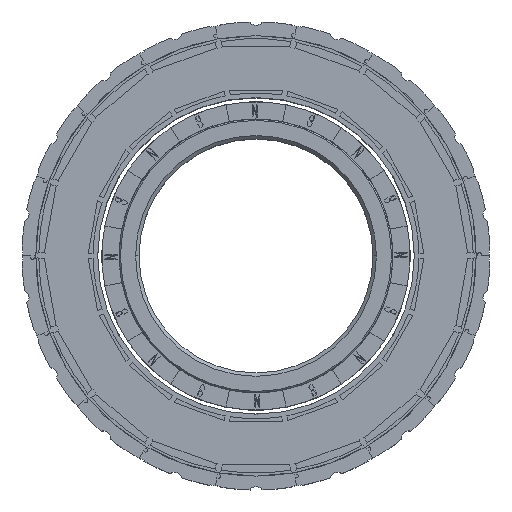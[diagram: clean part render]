
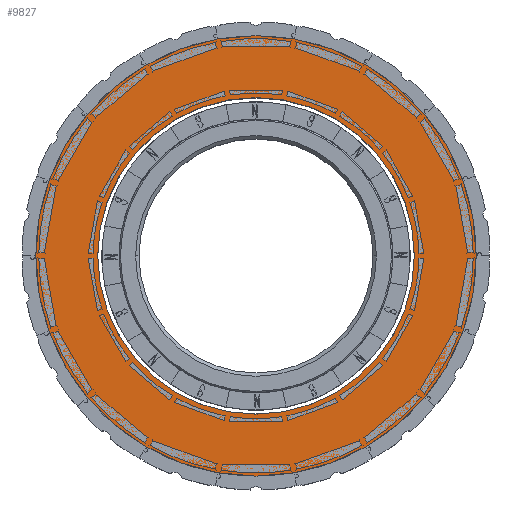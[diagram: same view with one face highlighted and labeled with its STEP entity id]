
A CAD part, top view. The second image highlights one B-rep face of the part: STEP entity #9827.
In plain terms, the highlighted planar face has unit normal (0, 0, 1).
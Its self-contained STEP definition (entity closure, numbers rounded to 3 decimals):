
#543 = CIRCLE ( 'NONE', #32594, 23. ) ;
#1608 = CARTESIAN_POINT ( 'NONE',  ( 0., 0., 0. ) ) ;
#1949 = EDGE_CURVE ( 'NONE', #29826, #21379, #37314, .T. ) ;
#4308 = EDGE_CURVE ( 'NONE', #24821, #24776, #543, .T. ) ;
#5993 = AXIS2_PLACEMENT_3D ( 'NONE', #32500, #15210, #28971 ) ;
#6102 = PLANE ( 'NONE',  #9862 ) ;
#7221 = AXIS2_PLACEMENT_3D ( 'NONE', #1608, #15167, #43647 ) ;
#7920 = DIRECTION ( 'NONE',  ( 1., 0., 0. ) ) ;
#9153 = DIRECTION ( 'NONE',  ( 0., 0., 1. ) ) ;
#9827 = ADVANCED_FACE ( 'NONE', ( #16142, #30838 ), #6102, .T. ) ;
#9862 = AXIS2_PLACEMENT_3D ( 'NONE', #34339, #19391, #13098 ) ;
#11413 = CARTESIAN_POINT ( 'NONE',  ( -32., 0., 0. ) ) ;
#12312 = DIRECTION ( 'NONE',  ( 0., 0., 1. ) ) ;
#13098 = DIRECTION ( 'NONE',  ( 1., 0., 0. ) ) ;
#15167 = DIRECTION ( 'NONE',  ( 0., 0., 1. ) ) ;
#15210 = DIRECTION ( 'NONE',  ( 0., 0., 1. ) ) ;
#16142 = FACE_BOUND ( 'NONE', #41538, .T. ) ;
#17304 = DIRECTION ( 'NONE',  ( 1., 0., 0. ) ) ;
#19391 = DIRECTION ( 'NONE',  ( 0., 0., 1. ) ) ;
#19805 = EDGE_CURVE ( 'NONE', #21379, #29826, #34304, .T. ) ;
#20129 = AXIS2_PLACEMENT_3D ( 'NONE', #41141, #9153, #17304 ) ;
#21379 = VERTEX_POINT ( 'NONE', #30355 ) ;
#24776 = VERTEX_POINT ( 'NONE', #34862 ) ;
#24821 = VERTEX_POINT ( 'NONE', #38153 ) ;
#28971 = DIRECTION ( 'NONE',  ( 1., 0., 0. ) ) ;
#29562 = CIRCLE ( 'NONE', #7221, 23. ) ;
#29699 = ORIENTED_EDGE ( 'NONE', *, *, #38672, .F. ) ;
#29826 = VERTEX_POINT ( 'NONE', #11413 ) ;
#30355 = CARTESIAN_POINT ( 'NONE',  ( 32., 0., 0. ) ) ;
#30838 = FACE_OUTER_BOUND ( 'NONE', #37800, .T. ) ;
#32500 = CARTESIAN_POINT ( 'NONE',  ( 0., 0., 0. ) ) ;
#32594 = AXIS2_PLACEMENT_3D ( 'NONE', #39904, #12312, #7920 ) ;
#32868 = ORIENTED_EDGE ( 'NONE', *, *, #19805, .T. ) ;
#34304 = CIRCLE ( 'NONE', #20129, 32. ) ;
#34339 = CARTESIAN_POINT ( 'NONE',  ( 0., 0., 0. ) ) ;
#34862 = CARTESIAN_POINT ( 'NONE',  ( 23., 0., 0. ) ) ;
#35002 = ORIENTED_EDGE ( 'NONE', *, *, #1949, .T. ) ;
#37314 = CIRCLE ( 'NONE', #5993, 32. ) ;
#37800 = EDGE_LOOP ( 'NONE', ( #32868, #35002 ) ) ;
#38153 = CARTESIAN_POINT ( 'NONE',  ( -23., 0., 0. ) ) ;
#38672 = EDGE_CURVE ( 'NONE', #24776, #24821, #29562, .T. ) ;
#39904 = CARTESIAN_POINT ( 'NONE',  ( 0., 0., 0. ) ) ;
#41117 = ORIENTED_EDGE ( 'NONE', *, *, #4308, .F. ) ;
#41141 = CARTESIAN_POINT ( 'NONE',  ( 0., 0., 0. ) ) ;
#41538 = EDGE_LOOP ( 'NONE', ( #29699, #41117 ) ) ;
#43647 = DIRECTION ( 'NONE',  ( 1., 0., 0. ) ) ;
